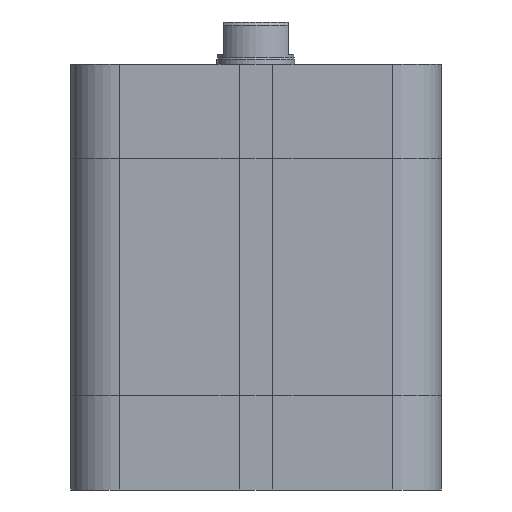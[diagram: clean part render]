
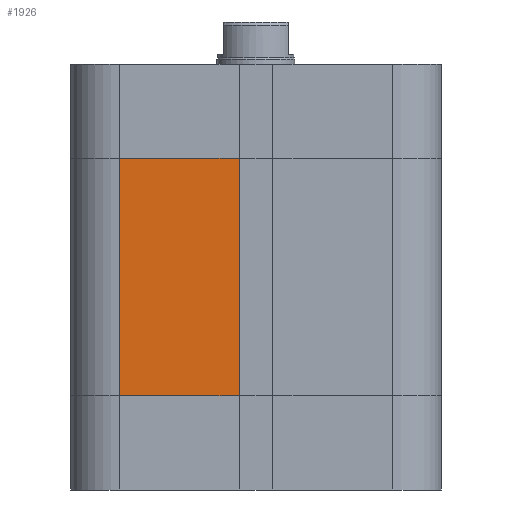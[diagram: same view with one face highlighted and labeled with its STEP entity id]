
A CAD part, front view. The second image highlights one B-rep face of the part: STEP entity #1926.
In plain terms, the highlighted planar face has unit normal (0, -1, 0).
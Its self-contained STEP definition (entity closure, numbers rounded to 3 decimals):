
#1837=CARTESIAN_POINT('',(-21.0,-28.5,14.5));
#1838=VERTEX_POINT('',#1837);
#1846=CARTESIAN_POINT('',(-21.0,-28.5,51.0));
#1847=VERTEX_POINT('',#1846);
#1848=CARTESIAN_POINT('',(-21.0,-28.5,14.5));
#1849=DIRECTION('',(0.0,0.0,1.0));
#1850=VECTOR('',#1849,36.5);
#1851=LINE('',#1848,#1850);
#1852=EDGE_CURVE('',#1838,#1847,#1851,.T.);
#1896=CARTESIAN_POINT('',(-2.6,-28.5,0.0));
#1897=DIRECTION('',(0.0,-1.0,0.0));
#1898=DIRECTION('',(0.0,0.0,-1.0));
#1899=AXIS2_PLACEMENT_3D('',#1896,#1897,#1898);
#1900=PLANE('',#1899);
#1901=CARTESIAN_POINT('',(-2.6,-28.5,14.5));
#1902=VERTEX_POINT('',#1901);
#1903=CARTESIAN_POINT('',(-21.0,-28.5,14.5));
#1904=DIRECTION('',(1.0,0.0,0.0));
#1905=VECTOR('',#1904,18.4);
#1906=LINE('',#1903,#1905);
#1907=EDGE_CURVE('',#1838,#1902,#1906,.T.);
#1908=ORIENTED_EDGE('',*,*,#1907,.T.);
#1909=CARTESIAN_POINT('',(-2.6,-28.5,51.0));
#1910=VERTEX_POINT('',#1909);
#1911=CARTESIAN_POINT('',(-2.6,-28.5,14.5));
#1912=DIRECTION('',(0.0,0.0,1.0));
#1913=VECTOR('',#1912,36.5);
#1914=LINE('',#1911,#1913);
#1915=EDGE_CURVE('',#1902,#1910,#1914,.T.);
#1916=ORIENTED_EDGE('',*,*,#1915,.T.);
#1917=CARTESIAN_POINT('',(-21.0,-28.5,51.0));
#1918=DIRECTION('',(1.0,0.0,0.0));
#1919=VECTOR('',#1918,18.4);
#1920=LINE('',#1917,#1919);
#1921=EDGE_CURVE('',#1847,#1910,#1920,.T.);
#1922=ORIENTED_EDGE('',*,*,#1921,.F.);
#1923=ORIENTED_EDGE('',*,*,#1852,.F.);
#1924=EDGE_LOOP('',(#1908,#1916,#1922,#1923));
#1925=FACE_OUTER_BOUND('',#1924,.T.);
#1926=ADVANCED_FACE('',(#1925),#1900,.T.);
